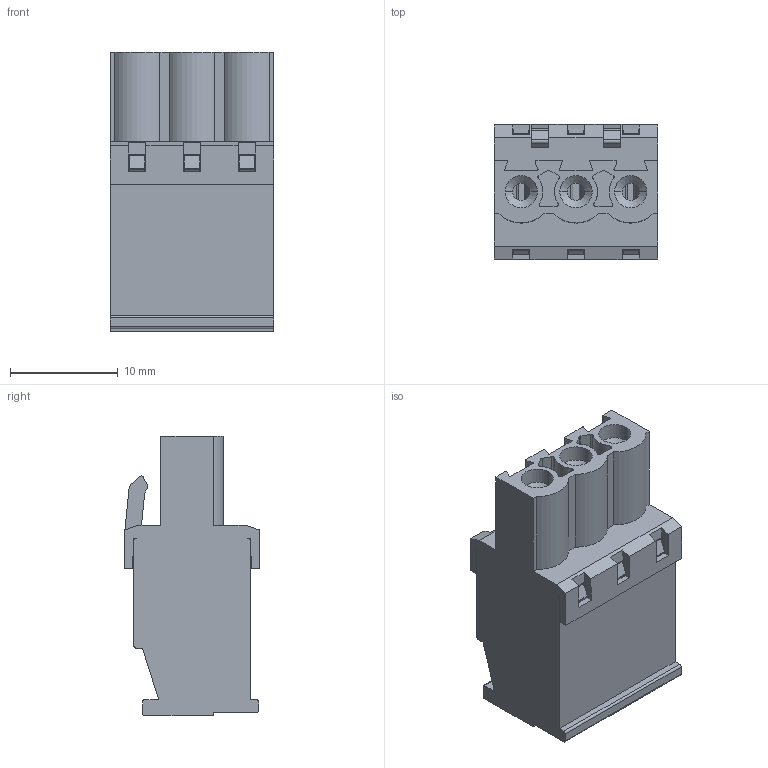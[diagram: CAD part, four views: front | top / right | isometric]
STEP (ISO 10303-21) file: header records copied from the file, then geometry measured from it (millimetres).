
FILE_DESCRIPTION((''),'2;1');
FILE_NAME('PRT0001','2016-06-23T',('exploitation08'),(''),'PRO/ENGINEER BY PARAMETRIC TECHNOLOGY CORPORATION, 2009440','PRO/ENGINEER BY PARAMETRIC TECHNOLOGY CORPORATION, 2009440','');
FILE_SCHEMA(('CONFIG_CONTROL_DESIGN'));
Length unit declared in the file: millimetre
Products named in the file (1): PRT0001
Bounding box: 15.24 x 12.59 x 26 mm (x, y, z)
Volume: 2263.7 mm3; surface area: 5580 mm2
Topology: 1 solids, 1 shells, 1046 faces, 2999 edges, 1974 vertices
Faces by surface type: plane 567, cylinder 302, bspline 111, cone 45, torus 12, extrusion 9
Entity records: 46344 total; most frequent: CARTESIAN_POINT 19223, ORIENTED_EDGE 5986, DIRECTION 5208, EDGE_CURVE 2993, VERTEX_POINT 1971, VECTOR 1942, LINE 1933, AXIS2_PLACEMENT_3D 1633
